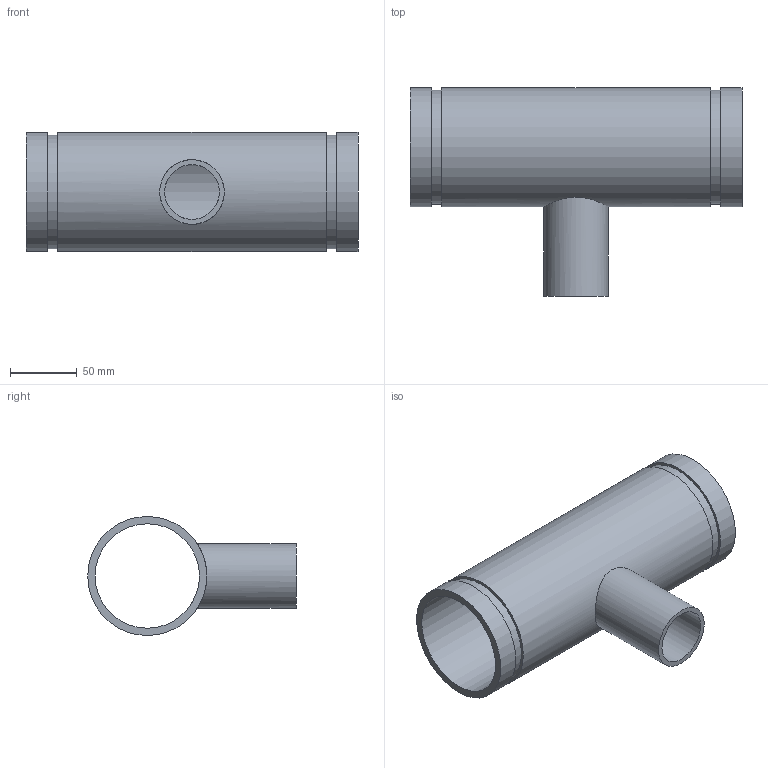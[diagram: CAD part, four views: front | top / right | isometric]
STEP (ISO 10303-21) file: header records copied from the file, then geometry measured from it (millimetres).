
FILE_DESCRIPTION(/* description */ ('VIC REDUCING TEE No 29T FFT (OGSxMPT)','CAx-IF Rec.Pracs.---Representation and Presentation of Product Manufacturing Information (PMI)---4.0---2014-10-13'),/* implementation_level */ '2;1');
FILE_NAME(/* name */ 'C:\Users\kkamble\AppData\Roaming\Autodesk\ApplicationPlugins\Back Up\Victaulic_IPS_Tee Reducing_No 29T FFT (OGSxMPT)\Victaulic_IPS_Tee Reducing_No 29T FFT (OGSxMPT)_03.0x01.5 (80x40).stp',/* time_stamp */ '2020-09-16T22:37:42+05:00',/* author */ ('CORINNE GRAY'),/* organization */ ('Victaulic'),/* preprocessor_version */ 'ST-DEVELOPER v17.2',/* originating_system */ 'Autodesk Inventor 2019',/* authorisation */ '');
FILE_SCHEMA (('AP242_MANAGED_MODEL_BASED_3D_ENGINEERING_MIM_LF { 1 0 10303 442 1 1 4 }'));
Length unit declared in the file: inch
Products named in the file (1): 29 FFT-03.0x01.5
Bounding box: 247.9 x 155.7 x 88.9 mm (x, y, z)
Volume: 376355.7 mm3; surface area: 152323.1 mm2
Topology: 1 solids, 1 shells, 15 faces, 32 edges, 24 vertices
Faces by surface type: cylinder 8, plane 7
Full cylindrical faces by diameter (mm): 40.894 x1, 48.26 x1, 77.927 x1, 84.938 x2, 88.9 x3
Entity records: 709 total; most frequent: CARTESIAN_POINT 221, DIRECTION 106, ORIENTED_EDGE 64, AXIS2_PLACEMENT_3D 49, EDGE_CURVE 32, EDGE_LOOP 24, VERTEX_POINT 24, CIRCLE 20
